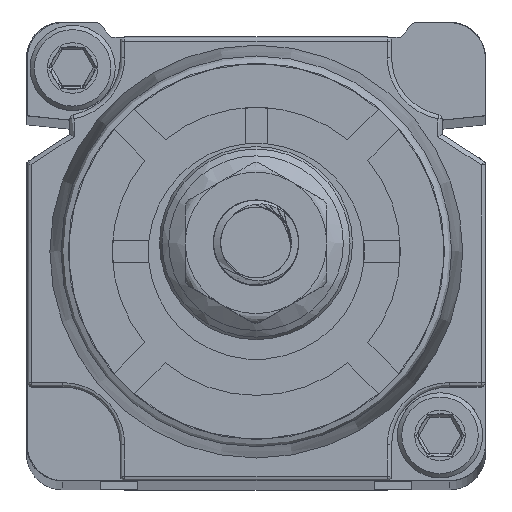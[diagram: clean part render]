
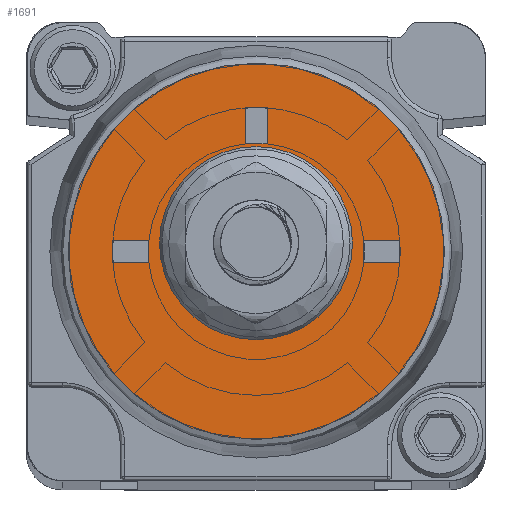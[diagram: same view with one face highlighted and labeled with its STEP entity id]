
A CAD part, top view. The second image highlights one B-rep face of the part: STEP entity #1691.
In plain terms, the highlighted planar face has unit normal (0, 0, 1).
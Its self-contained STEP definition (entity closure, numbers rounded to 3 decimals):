
#1691=ADVANCED_FACE('',(#5381,#5382,#5383,#5384,#5385),#2277,.T.);
#2277=PLANE('',#14747);
#3194=LINE('',#32556,#4567);
#3197=LINE('',#32562,#4570);
#3200=LINE('',#32568,#4573);
#3202=LINE('',#32571,#4575);
#3209=LINE('',#32594,#4582);
#3213=LINE('',#32601,#4586);
#3215=LINE('',#32605,#4588);
#3217=LINE('',#32608,#4590);
#3218=LINE('',#32618,#4591);
#3219=LINE('',#32621,#4592);
#3220=LINE('',#32623,#4593);
#3221=LINE('',#32625,#4594);
#4567=VECTOR('',#17392,1.);
#4570=VECTOR('',#17397,1.);
#4573=VECTOR('',#17402,1.);
#4575=VECTOR('',#17406,1.);
#4582=VECTOR('',#17427,1.);
#4586=VECTOR('',#17433,1.);
#4588=VECTOR('',#17437,1.);
#4590=VECTOR('',#17441,1.);
#4591=VECTOR('',#17454,1.);
#4592=VECTOR('',#17455,1.);
#4593=VECTOR('',#17456,1.);
#4594=VECTOR('',#17457,1.);
#5381=FACE_BOUND('',#5980,.T.);
#5382=FACE_BOUND('',#5981,.T.);
#5383=FACE_BOUND('',#5982,.T.);
#5384=FACE_BOUND('',#5983,.T.);
#5385=FACE_BOUND('',#5984,.T.);
#5980=EDGE_LOOP('',(#8573));
#5981=EDGE_LOOP('',(#8574,#8575,#8576,#8577));
#5982=EDGE_LOOP('',(#8578,#8579,#8580,#8581));
#5983=EDGE_LOOP('',(#8582,#8583,#8584,#8585));
#5984=EDGE_LOOP('',(#8586));
#8573=ORIENTED_EDGE('',*,*,#12662,.F.);
#8574=ORIENTED_EDGE('',*,*,#12672,.F.);
#8575=ORIENTED_EDGE('',*,*,#12675,.F.);
#8576=ORIENTED_EDGE('',*,*,#12678,.F.);
#8577=ORIENTED_EDGE('',*,*,#12680,.F.);
#8578=ORIENTED_EDGE('',*,*,#12703,.F.);
#8579=ORIENTED_EDGE('',*,*,#12704,.F.);
#8580=ORIENTED_EDGE('',*,*,#12705,.F.);
#8581=ORIENTED_EDGE('',*,*,#12706,.F.);
#8582=ORIENTED_EDGE('',*,*,#12691,.F.);
#8583=ORIENTED_EDGE('',*,*,#12695,.F.);
#8584=ORIENTED_EDGE('',*,*,#12697,.F.);
#8585=ORIENTED_EDGE('',*,*,#12699,.F.);
#8586=ORIENTED_EDGE('',*,*,#12702,.F.);
#11000=VERTEX_POINT('',#32533);
#11009=VERTEX_POINT('',#32555);
#11010=VERTEX_POINT('',#32557);
#11011=VERTEX_POINT('',#32561);
#11013=VERTEX_POINT('',#32567);
#11022=VERTEX_POINT('',#32593);
#11023=VERTEX_POINT('',#32595);
#11024=VERTEX_POINT('',#32600);
#11025=VERTEX_POINT('',#32604);
#11028=VERTEX_POINT('',#32616);
#11029=VERTEX_POINT('',#32619);
#11030=VERTEX_POINT('',#32620);
#11031=VERTEX_POINT('',#32622);
#11032=VERTEX_POINT('',#32624);
#12662=EDGE_CURVE('',#11000,#11000,#13810,.T.);
#12672=EDGE_CURVE('',#11009,#11010,#3194,.T.);
#12675=EDGE_CURVE('',#11011,#11009,#3197,.T.);
#12678=EDGE_CURVE('',#11013,#11011,#3200,.T.);
#12680=EDGE_CURVE('',#11010,#11013,#3202,.T.);
#12691=EDGE_CURVE('',#11022,#11023,#3209,.T.);
#12695=EDGE_CURVE('',#11024,#11022,#3213,.T.);
#12697=EDGE_CURVE('',#11025,#11024,#3215,.T.);
#12699=EDGE_CURVE('',#11023,#11025,#3217,.T.);
#12702=EDGE_CURVE('',#11028,#11028,#13821,.T.);
#12703=EDGE_CURVE('',#11029,#11030,#3218,.T.);
#12704=EDGE_CURVE('',#11031,#11029,#3219,.T.);
#12705=EDGE_CURVE('',#11032,#11031,#3220,.T.);
#12706=EDGE_CURVE('',#11030,#11032,#3221,.T.);
#13810=CIRCLE('',#14719,3.993);
#13821=CIRCLE('',#14745,13.037);
#14719=AXIS2_PLACEMENT_3D('',#32532,#17369,#17370);
#14745=AXIS2_PLACEMENT_3D('',#32615,#17450,#17451);
#14747=AXIS2_PLACEMENT_3D('',#32626,#17458,#17459);
#17369=DIRECTION('',(0.,0.,1.));
#17370=DIRECTION('',(1.,0.,0.));
#17392=DIRECTION('',(0.,-1.,0.));
#17397=DIRECTION('',(-1.,0.,0.));
#17402=DIRECTION('',(0.,1.,0.));
#17406=DIRECTION('',(1.,0.,0.));
#17427=DIRECTION('',(0.,1.,0.));
#17433=DIRECTION('',(1.,0.,0.));
#17437=DIRECTION('',(0.,-1.,0.));
#17441=DIRECTION('',(-1.,0.,0.));
#17450=DIRECTION('',(0.,0.,-1.));
#17451=DIRECTION('',(-1.,0.,0.));
#17454=DIRECTION('',(1.,0.,0.));
#17455=DIRECTION('',(0.,-1.,0.));
#17456=DIRECTION('',(-1.,0.,0.));
#17457=DIRECTION('',(0.,1.,0.));
#17458=DIRECTION('',(0.,0.,1.));
#17459=DIRECTION('',(1.,0.,0.));
#32532=CARTESIAN_POINT('',(350.023,-15.873,66.964));
#32533=CARTESIAN_POINT('',(354.016,-15.873,66.964));
#32555=CARTESIAN_POINT('',(349.274,-5.928,66.964));
#32556=CARTESIAN_POINT('',(349.274,-5.928,66.964));
#32557=CARTESIAN_POINT('',(349.274,-8.424,66.964));
#32561=CARTESIAN_POINT('',(350.771,-5.928,66.964));
#32562=CARTESIAN_POINT('',(350.771,-5.928,66.964));
#32567=CARTESIAN_POINT('',(350.771,-8.424,66.964));
#32568=CARTESIAN_POINT('',(350.771,-8.424,66.964));
#32571=CARTESIAN_POINT('',(349.274,-8.424,66.964));
#32593=CARTESIAN_POINT('',(359.967,-16.621,66.964));
#32594=CARTESIAN_POINT('',(359.967,-16.621,66.964));
#32595=CARTESIAN_POINT('',(359.967,-15.124,66.964));
#32600=CARTESIAN_POINT('',(357.472,-16.621,66.964));
#32601=CARTESIAN_POINT('',(357.472,-16.621,66.964));
#32604=CARTESIAN_POINT('',(357.472,-15.124,66.964));
#32605=CARTESIAN_POINT('',(357.472,-15.124,66.964));
#32608=CARTESIAN_POINT('',(359.967,-15.124,66.964));
#32615=CARTESIAN_POINT('',(350.023,-15.873,66.964));
#32616=CARTESIAN_POINT('',(336.986,-15.873,66.964));
#32618=CARTESIAN_POINT('',(340.078,-16.621,66.964));
#32619=CARTESIAN_POINT('',(340.078,-16.621,66.964));
#32620=CARTESIAN_POINT('',(342.574,-16.621,66.964));
#32621=CARTESIAN_POINT('',(340.078,-15.124,66.964));
#32622=CARTESIAN_POINT('',(340.078,-15.124,66.964));
#32623=CARTESIAN_POINT('',(342.574,-15.124,66.964));
#32624=CARTESIAN_POINT('',(342.574,-15.124,66.964));
#32625=CARTESIAN_POINT('',(342.574,-16.621,66.964));
#32626=CARTESIAN_POINT('',(350.023,-15.873,66.964));
